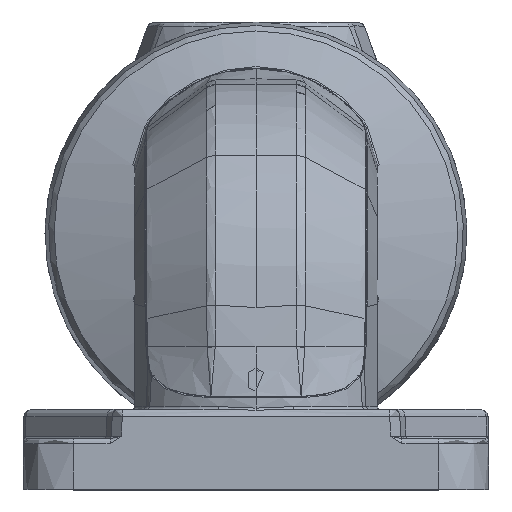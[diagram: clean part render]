
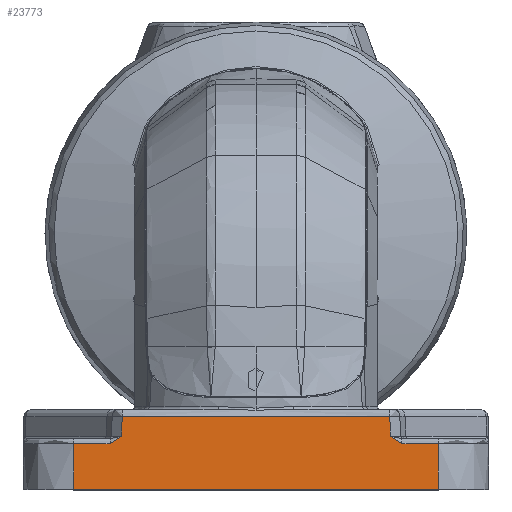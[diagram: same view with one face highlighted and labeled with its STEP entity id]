
A CAD part, top view. The second image highlights one B-rep face of the part: STEP entity #23773.
In plain terms, the highlighted planar face has unit normal (0, 0.009, 1).
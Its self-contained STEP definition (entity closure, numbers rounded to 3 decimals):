
#18951=PLANE('',#72587);
#20297=LINE('',#93081,#21792);
#20298=LINE('',#93107,#21793);
#20302=LINE('',#93145,#21797);
#20458=LINE('',#97959,#21953);
#20487=LINE('',#98178,#21982);
#20490=LINE('',#98192,#21985);
#20491=LINE('',#98194,#21986);
#20492=LINE('',#98203,#21987);
#21792=VECTOR('',#77218,1.);
#21793=VECTOR('',#77221,1.);
#21797=VECTOR('',#77235,1.);
#21953=VECTOR('',#78569,1.);
#21982=VECTOR('',#78666,1.);
#21985=VECTOR('',#78673,1.);
#21986=VECTOR('',#78674,1.);
#21987=VECTOR('',#78675,1.);
#23773=ADVANCED_FACE('',(#28829),#18951,.T.);
#28829=FACE_OUTER_BOUND('',#32354,.T.);
#32354=EDGE_LOOP('',(#42877,#42878,#42879,#42880,#42881,#42882,#42883,#42884,
#42885,#42886));
#35749=B_SPLINE_CURVE_WITH_KNOTS('',3,(#93083,#93084,#93085,#93086,#93087,
#93088),.UNSPECIFIED.,.F.,.F.,(4,2,4),(0.,0.5,1.),.UNSPECIFIED.);
#35927=B_SPLINE_CURVE_WITH_KNOTS('',3,(#98196,#98197,#98198,#98199,#98200,
#98201),.UNSPECIFIED.,.F.,.F.,(4,2,4),(0.,0.5,1.),.UNSPECIFIED.);
#42877=ORIENTED_EDGE('',*,*,#62518,.T.);
#42878=ORIENTED_EDGE('',*,*,#62590,.T.);
#42879=ORIENTED_EDGE('',*,*,#62591,.T.);
#42880=ORIENTED_EDGE('',*,*,#62592,.T.);
#42881=ORIENTED_EDGE('',*,*,#62593,.T.);
#42882=ORIENTED_EDGE('',*,*,#62585,.F.);
#42883=ORIENTED_EDGE('',*,*,#61761,.F.);
#42884=ORIENTED_EDGE('',*,*,#61760,.F.);
#42885=ORIENTED_EDGE('',*,*,#61759,.F.);
#42886=ORIENTED_EDGE('',*,*,#61769,.F.);
#56244=VERTEX_POINT('',#89211);
#56286=VERTEX_POINT('',#89713);
#56511=VERTEX_POINT('',#93080);
#56512=VERTEX_POINT('',#93108);
#56516=VERTEX_POINT('',#93144);
#56996=VERTEX_POINT('',#97958);
#57059=VERTEX_POINT('',#98179);
#57062=VERTEX_POINT('',#98193);
#57063=VERTEX_POINT('',#98195);
#57064=VERTEX_POINT('',#98202);
#61759=EDGE_CURVE('',#56286,#56511,#20297,.T.);
#61760=EDGE_CURVE('',#56511,#56244,#35749,.T.);
#61761=EDGE_CURVE('',#56244,#56512,#20298,.T.);
#61769=EDGE_CURVE('',#56516,#56286,#20302,.T.);
#62518=EDGE_CURVE('',#56516,#56996,#20458,.T.);
#62585=EDGE_CURVE('',#56512,#57059,#20487,.T.);
#62590=EDGE_CURVE('',#56996,#57062,#20490,.T.);
#62591=EDGE_CURVE('',#57062,#57063,#20491,.T.);
#62592=EDGE_CURVE('',#57063,#57064,#35927,.T.);
#62593=EDGE_CURVE('',#57064,#57059,#20492,.T.);
#72587=AXIS2_PLACEMENT_3D('',#98204,#78676,#78677);
#77218=DIRECTION('',(1.,0.,0.));
#77221=DIRECTION('',(0.035,0.999,-0.009));
#77235=DIRECTION('',(0.009,1.,-0.009));
#78569=DIRECTION('',(1.,0.,0.));
#78666=DIRECTION('',(1.,0.,0.));
#78673=DIRECTION('',(-0.009,1.,-0.009));
#78674=DIRECTION('',(-1.,0.,0.));
#78675=DIRECTION('',(-0.035,0.999,-0.009));
#78676=DIRECTION('',(0.,0.009,1.));
#78677=DIRECTION('',(0.,1.,-0.009));
#89211=CARTESIAN_POINT('',(371.675,817.614,15.367));
#89713=CARTESIAN_POINT('',(352.689,814.64,15.393));
#93080=CARTESIAN_POINT('',(367.102,814.64,15.393));
#93081=CARTESIAN_POINT('',(217.757,814.64,15.393));
#93083=CARTESIAN_POINT('',(367.102,814.64,15.393));
#93084=CARTESIAN_POINT('',(368.053,814.64,15.393));
#93085=CARTESIAN_POINT('',(368.968,815.029,15.39));
#93086=CARTESIAN_POINT('',(370.467,816.151,15.38));
#93087=CARTESIAN_POINT('',(371.077,816.882,15.373));
#93088=CARTESIAN_POINT('',(371.675,817.614,15.367));
#93107=CARTESIAN_POINT('',(372.046,828.248,15.274));
#93108=CARTESIAN_POINT('',(371.947,825.399,15.299));
#93144=CARTESIAN_POINT('',(352.53,796.473,15.552));
#93145=CARTESIAN_POINT('',(352.52,795.311,15.562));
#97958=CARTESIAN_POINT('',(497.832,796.473,15.552));
#97959=CARTESIAN_POINT('',(517.127,796.473,15.552));
#98178=CARTESIAN_POINT('',(217.757,825.399,15.299));
#98179=CARTESIAN_POINT('',(478.415,825.399,15.299));
#98192=CARTESIAN_POINT('',(497.842,795.311,15.562));
#98193=CARTESIAN_POINT('',(497.673,814.64,15.393));
#98194=CARTESIAN_POINT('',(632.605,814.64,15.393));
#98195=CARTESIAN_POINT('',(483.26,814.64,15.393));
#98196=CARTESIAN_POINT('',(483.26,814.64,15.393));
#98197=CARTESIAN_POINT('',(482.309,814.64,15.393));
#98198=CARTESIAN_POINT('',(481.394,815.029,15.39));
#98199=CARTESIAN_POINT('',(479.895,816.151,15.38));
#98200=CARTESIAN_POINT('',(479.285,816.882,15.373));
#98201=CARTESIAN_POINT('',(478.687,817.614,15.367));
#98202=CARTESIAN_POINT('',(478.687,817.614,15.367));
#98203=CARTESIAN_POINT('',(478.316,828.248,15.274));
#98204=CARTESIAN_POINT('',(217.757,796.487,15.551));
